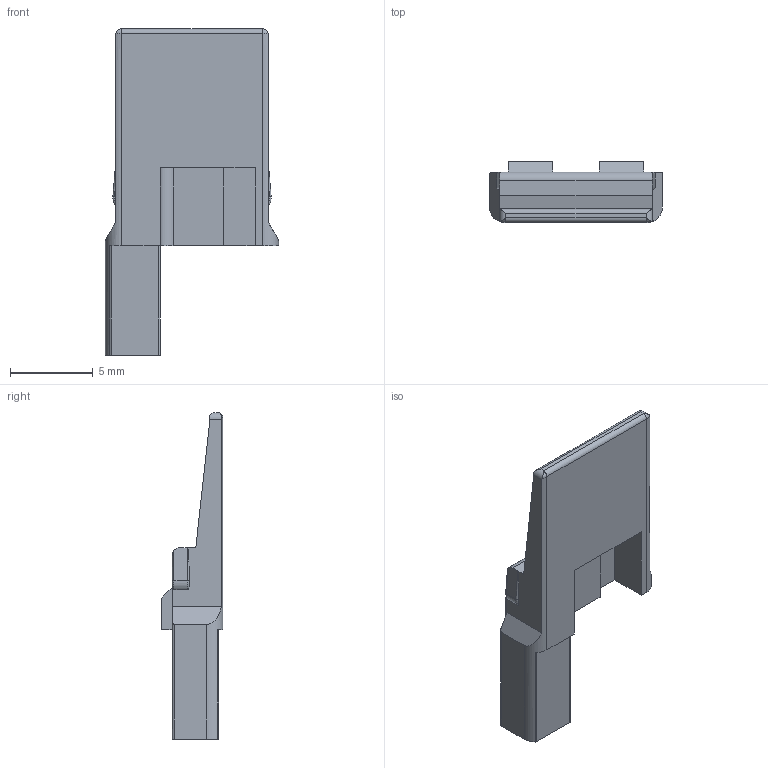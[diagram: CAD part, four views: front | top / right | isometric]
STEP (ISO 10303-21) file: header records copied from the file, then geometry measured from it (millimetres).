
FILE_DESCRIPTION((''),'2;1');
FILE_NAME('C-W2PC','2012-11-13T',('workeradm'),('Tyco Electronics Ltd.'),'PRO/ENGINEER BY PARAMETRIC TECHNOLOGY CORPORATION, 2010430','PRO/ENGINEER BY PARAMETRIC TECHNOLOGY CORPORATION, 2010430','');
FILE_SCHEMA(('AUTOMOTIVE_DESIGN { 1 0 10303 214 1 1 1 1 }'));
Length unit declared in the file: millimetre
Products named in the file (1): C-W2PC
Bounding box: 10.44 x 3.71 x 19.68 mm (x, y, z)
Volume: 239.5 mm3; surface area: 445.3 mm2
Topology: 1 solids, 1 shells, 62 faces, 172 edges, 112 vertices
Faces by surface type: plane 36, cylinder 20, torus 6
Entity records: 2396 total; most frequent: CARTESIAN_POINT 495, ORIENTED_EDGE 344, DIRECTION 309, EDGE_CURVE 172, VECTOR 117, LINE 117, VERTEX_POINT 112, AXIS2_PLACEMENT_3D 96
